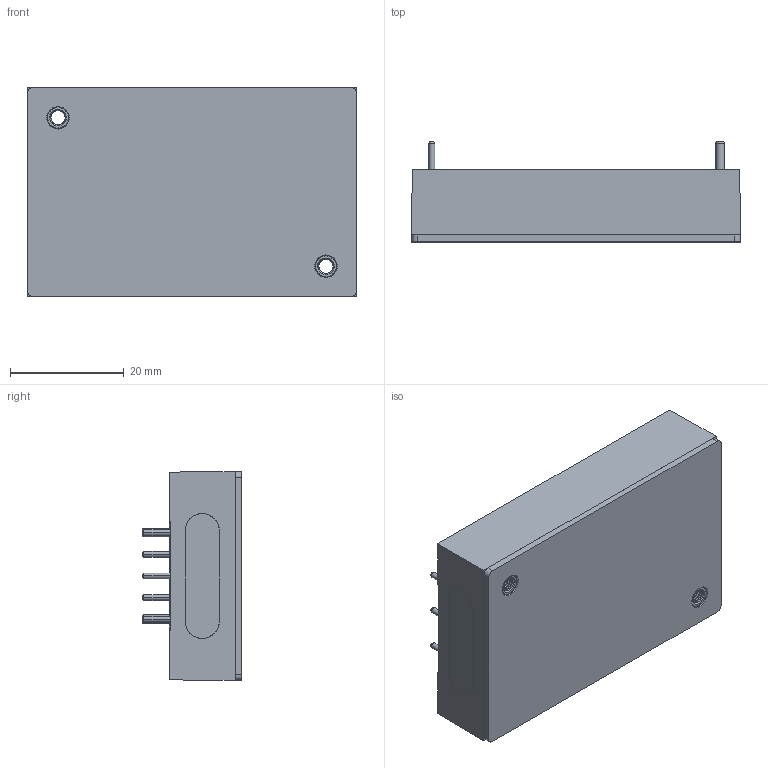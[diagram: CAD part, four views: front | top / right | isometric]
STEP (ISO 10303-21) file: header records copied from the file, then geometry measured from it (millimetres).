
FILE_DESCRIPTION (( 'STEP AP214' ), '1' );
FILE_NAME ('CQB100W14-72SXX,CQB150W-24(48)SXX,CQB100W-110SXX,CQB150W-110SXX成品圖(M-C053-D)V1.0.STEP', '2022-01-05T05:47:45', ( '' ), ( '' ), 'SwSTEP 2.0', 'SolidWorks 2020', '' );
FILE_SCHEMA (( 'AUTOMOTIVE_DESIGN' ));
Length unit declared in the file: millimetre
Products named in the file (4): CQB150W CASE(M-C998-00-M)G5113210012_兩孔; CQB100W14-72SXX鋁基板,銅柱G75C1190011 2021.09.24; CQB100W14-72SXX圓PIN加灌膠2021.09.24; CQB100W14-72SXX,CQB150W-24(48)SXX,CQB100W-110SXX,CQB150W-110SXX成品圖(M-C053-D)V1.0
Assembly tree (3 placements, depth 2):
  CQB100W14-72SXX,CQB150W-24(48)SXX,CQB100W-110SXX,CQB150W-110SXX成品圖(M-C053-D)V1.0
    CQB150W CASE(M-C998-00-M)G5113210012_兩孔
    CQB100W14-72SXX鋁基板,銅柱G75C1190011 2021.09.24
    CQB100W14-72SXX圓PIN加灌膠2021.09.24
Bounding box: 57.9 x 17.6 x 36.8 mm (x, y, z)
Volume: 26950.4 mm3; surface area: 19680.5 mm2
Topology: 5 solids, 5 shells, 783 faces, 2142 edges, 1422 vertices
Faces by surface type: plane 408, cylinder 144, bspline 127, cone 100, torus 4
Entity records: 35678 total; most frequent: CARTESIAN_POINT 17090, ORIENTED_EDGE 4284, DIRECTION 3112, EDGE_CURVE 2142, VERTEX_POINT 1422, VECTOR 1332, LINE 1332, AXIS2_PLACEMENT_3D 890
